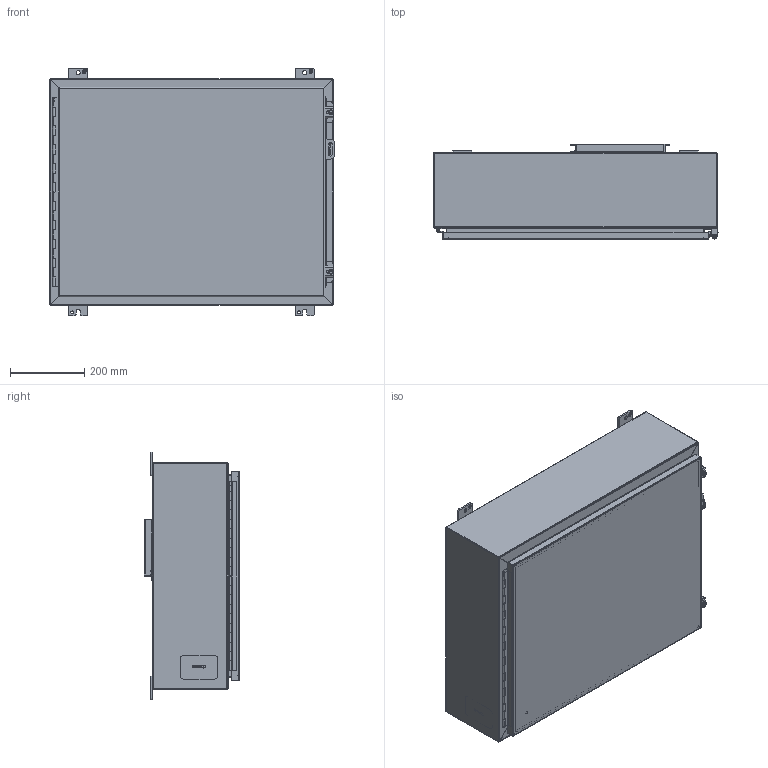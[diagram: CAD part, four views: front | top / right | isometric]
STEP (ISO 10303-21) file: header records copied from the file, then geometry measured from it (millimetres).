
FILE_DESCRIPTION(/* description */ ('Unknown'),/* implementation_level */ '2;1');
FILE_NAME(/* name */ '1418KR8LP',/* time_stamp */ '2026-02-20T16:33:41-05:00',/* author */ ('Unknown'),/* organization */ ('Unknown'),/* preprocessor_version */ 'ST-DEVELOPER v18.104',/* originating_system */ 'Solid Edge',/* authorisation */ 'Unknown');
FILE_SCHEMA (('AUTOMOTIVE_DESIGN {1 0 10303 214 3 1 1}'));
Length unit declared in the file: millimetre
Products named in the file (30): 1418KR8LP; KIT90256; LAB30005; NTS165305; NTS16535; KIT90518; WAF25059; NTS166105; STD26094; STD21878; COM42780; COM40153-1; HNG10620-20B; COM71780-12; COM40153-2; PNT11078; HNG10620-20C; COM70219_oa_0; COM48441; FET07710; AKT90223; SPR20265; SCC19011; WAF25035; COM42667; BUL10020; QLB30109; PKT99; HNG10620-20P
Assembly tree (40 placements, depth 3):
  1418KR8LP
    KIT90256
      LAB30005
      NTS165305
      NTS16535
    KIT90518
      WAF25059
      NTS166105
      LAB30005
    STD26094  x4
    STD21878
    COM42780  x2
    COM40153-1
    HNG10620-20B
    COM71780-12
      COM40153-2
      PNT11078
      HNG10620-20C
      COM70219_oa_0
      COM71780-12
      STD21878
    COM48441
    FET07710  x4
    PNT11078
    AKT90223  x2
      SPR20265
      SCC19011
      WAF25035
      COM42667
    BUL10020
    QLB30109
    PKT99
    HNG10620-20P
Bounding box: 765.17 x 257.18 x 666.75 mm (x, y, z)
Volume: 3367317 mm3; surface area: 3618367.8 mm2
Topology: 34 solids, 35 shells, 1181 faces, 3003 edges, 1926 vertices
Faces by surface type: plane 786, cylinder 298, bspline 49, cone 26, torus 20, sphere 2
Full cylindrical faces by diameter (mm): 3.175 x1, 4.763 x1, 4.976 x1, 5.41 x2, 6.198 x2, 6.35 x3, 6.731 x2, 7.137 x2, 7.805 x1, 7.938 x4, 8.382 x4, 9.525 x4, 9.906 x2, 11.113 x4, 11.303 x1, 12.7 x2, 16.51 x4, 25.4 x1, 88.9 x1
Entity records: 29533 total; most frequent: CARTESIAN_POINT 8209, ORIENTED_EDGE 4256, DIRECTION 4023, EDGE_CURVE 2128, LINE 1449, VECTOR 1449, VERTEX_POINT 1369, AXIS2_PLACEMENT_3D 1287
